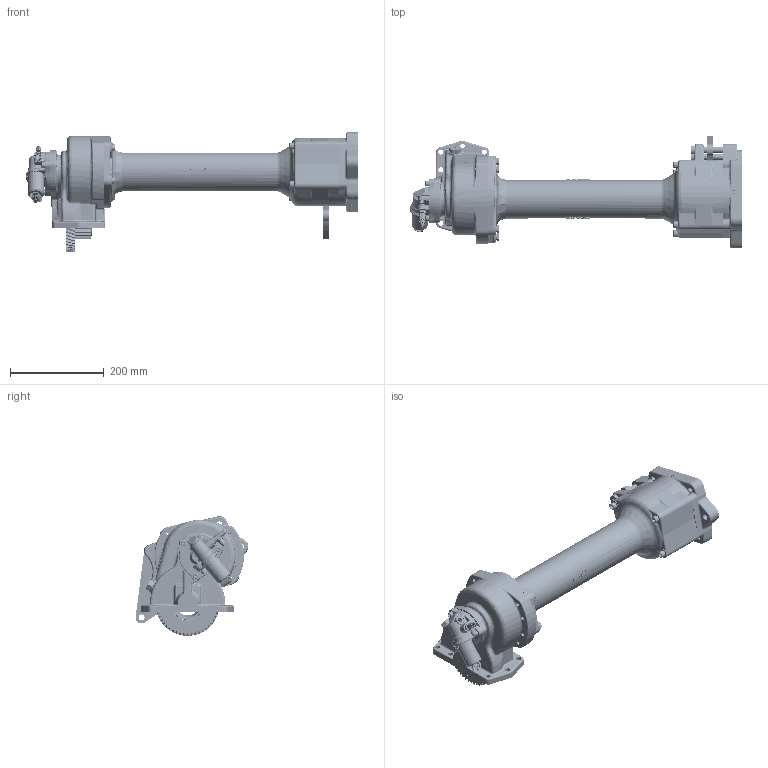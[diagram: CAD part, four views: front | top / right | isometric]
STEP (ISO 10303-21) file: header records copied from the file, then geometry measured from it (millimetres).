
FILE_DESCRIPTION((''),'2;1');
FILE_NAME('C:\Inventor\JBohn WIP\PCN\STP AND STL MODELS\step models\890L-B5XS.stp','2011-12-02T08:54:54',('jba7756'),(''),'Autodesk Inventor 2011','Autodesk Inventor 2011','');
FILE_SCHEMA(('AUTOMOTIVE_DESIGN { 1 0 10303 214 1 1 1 1 }'));
Length unit declared in the file: inch
Products named in the file (3): 890L-B5XS; 890XS; 50-P-60
Assembly tree (2 placements, depth 2):
  890L-B5XS
    890XS
    50-P-60
Bounding box: 708.53 x 240.48 x 255.29 mm (x, y, z)
Volume: 4415215.1 mm3; surface area: 931203.1 mm2
Topology: 4 solids, 24 shells, 8034 faces, 21319 edges, 13640 vertices
Faces by surface type: plane 3012, cylinder 2285, bspline 1979, torus 383, cone 332, sphere 43
Full cylindrical faces by diameter (mm): 0.711 x1, 0.8 x1, 1.473 x1, 1.969 x1, 1.981 x1, 2.184 x2, 2.388 x1, 2.464 x1, 2.794 x2, 3.175 x7, 3.962 x1, 4.369 x2, 4.699 x3, 4.75 x1, 4.775 x2, 4.978 x1, 6.401 x1, 7.137 x1, 7.798 x15, 7.836 x5, 7.925 x4, 7.938 x2, 7.95 x3, 8.331 x1, 8.382 x1, 8.611 x1, 8.712 x3, 9.246 x5, 9.347 x4, 9.449 x4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
Entity records: 309298 total; most frequent: CARTESIAN_POINT 116719, ORIENTED_EDGE 41118, DIRECTION 33114, EDGE_CURVE 20559, VERTEX_POINT 13388, AXIS2_PLACEMENT_3D 11678, VECTOR 9758, LINE 9758
